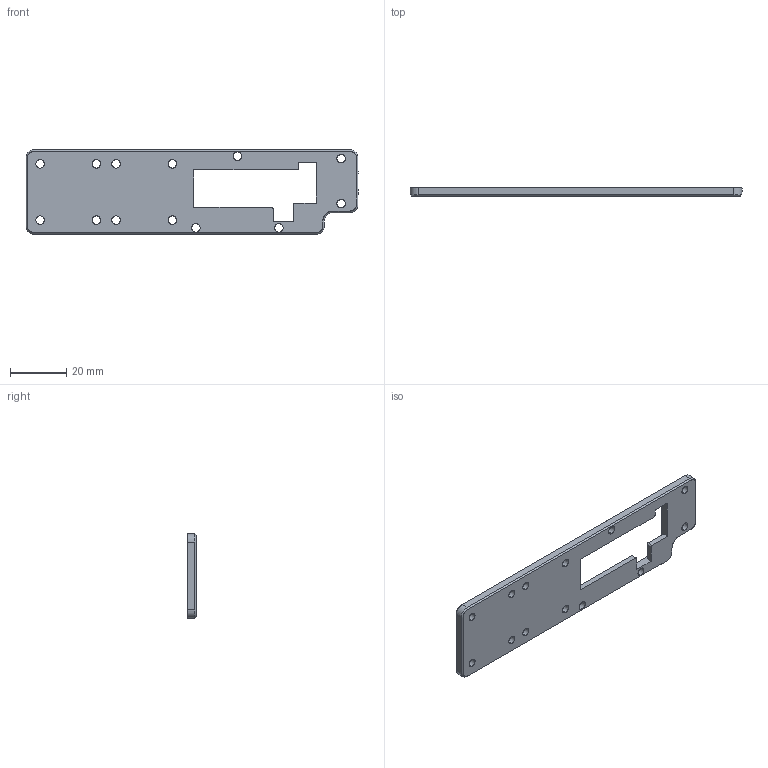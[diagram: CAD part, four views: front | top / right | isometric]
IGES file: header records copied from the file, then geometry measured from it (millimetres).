
Start section: SolidWorks IGES file using analytic representation for surfaces
Global section: file name: G:\My Drive\Bubble Gripper Doc Update\punyo.tech parts\V1.1\Pressure Sensor Board Bottom.IGS; native system: SolidWorks 2022; preprocessor: SolidWorks 2022; author: Jarod Wilson; date: 230329.154347; units: millimetre
Bounding box: 118 x 3 x 30 mm (x, y, z)
Surface area: 6967.6 mm2 (no closed solid volume)
Topology: 0 solids, 0 shells, 99 faces, 1448 edges, 1448 vertices
Faces by surface type: revolution 70, bspline 29
